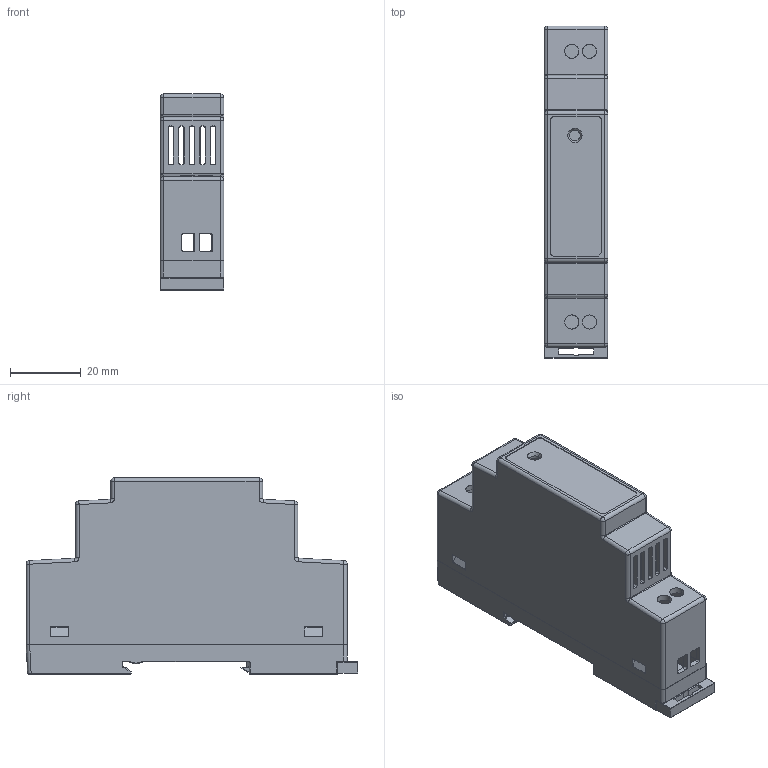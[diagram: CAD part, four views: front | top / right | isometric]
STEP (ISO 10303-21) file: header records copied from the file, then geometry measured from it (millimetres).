
FILE_DESCRIPTION((''),'2;1');
FILE_NAME('10W_ASM','2017-12-11T',('ERIC.YP.CHEN'),(''),'PRO/ENGINEER BY PARAMETRIC TECHNOLOGY CORPORATION, 2010280','PRO/ENGINEER BY PARAMETRIC TECHNOLOGY CORPORATION, 2010280','');
FILE_SCHEMA(('AUTOMOTIVE_DESIGN { 1 2 10303 214 0 1 1 1 }'));
Length unit declared in the file: millimetre
Products named in the file (4): 330DT78400; 330DT78500; 3471805200; 10W_ASM
Assembly tree (3 placements, depth 2):
  10W_ASM
    330DT78400
    330DT78500
    3471805200
Bounding box: 18 x 94 x 55.6 mm (x, y, z)
Volume: 18886.8 mm3; surface area: 28007.4 mm2
Topology: 3 solids, 3 shells, 780 faces, 1990 edges, 1218 vertices
Faces by surface type: plane 351, cylinder 312, sphere 58, torus 42, bspline 15, cone 2
Entity records: 30513 total; most frequent: CARTESIAN_POINT 5681, ORIENTED_EDGE 3980, DIRECTION 3719, PRESENTATION_STYLE_ASSIGNMENT 1993, STYLED_ITEM 1993, CURVE_STYLE 1990, EDGE_CURVE 1990, VECTOR 1333
